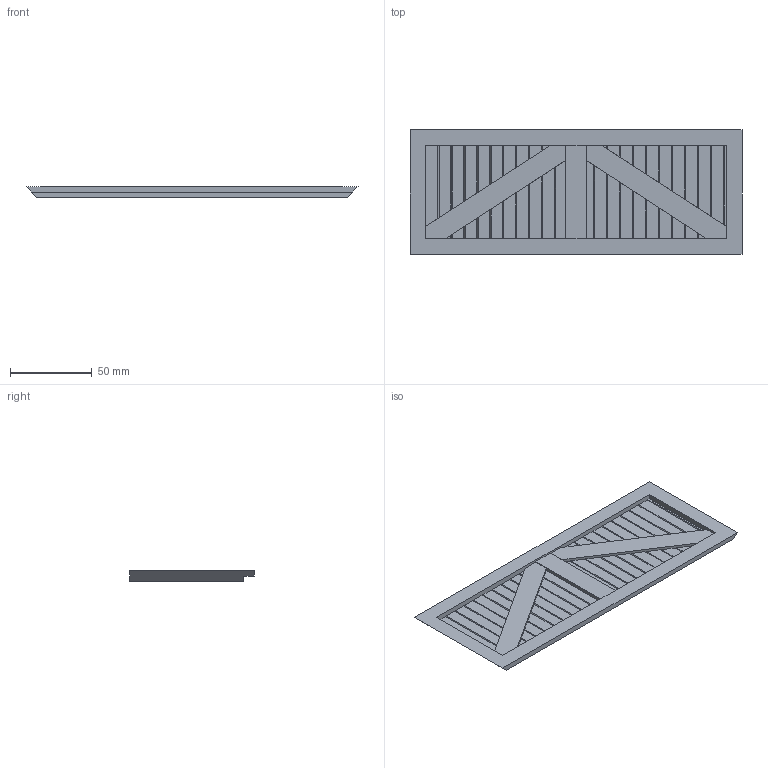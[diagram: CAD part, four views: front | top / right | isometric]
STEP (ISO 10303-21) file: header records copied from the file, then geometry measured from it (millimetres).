
FILE_DESCRIPTION (( 'STEP AP203' ), '1' );
FILE_NAME ('Box Back.STEP', '2018-02-28T19:19:44', ( '' ), ( '' ), 'SwSTEP 2.0', 'SolidWorks 2015', '' );
FILE_SCHEMA (( 'CONFIG_CONTROL_DESIGN' ));
Length unit declared in the file: inch
Products named in the file (1): Box Back
Bounding box: 203.2 x 76.2 x 6.35 mm (x, y, z)
Volume: 63330.2 mm3; surface area: 36746.8 mm2
Topology: 1 solids, 1 shells, 136 faces, 399 edges, 266 vertices
Faces by surface type: plane 136
Entity records: 4502 total; most frequent: CARTESIAN_POINT 802, ORIENTED_EDGE 798, DIRECTION 673, VECTOR 399, EDGE_CURVE 399, LINE 399, VERTEX_POINT 266, AXIS2_PLACEMENT_3D 137
